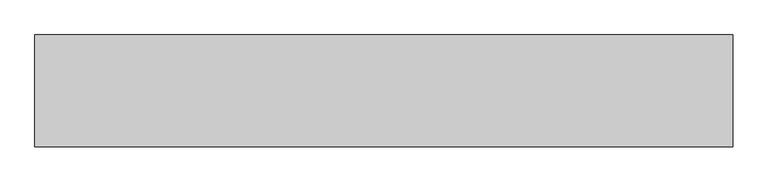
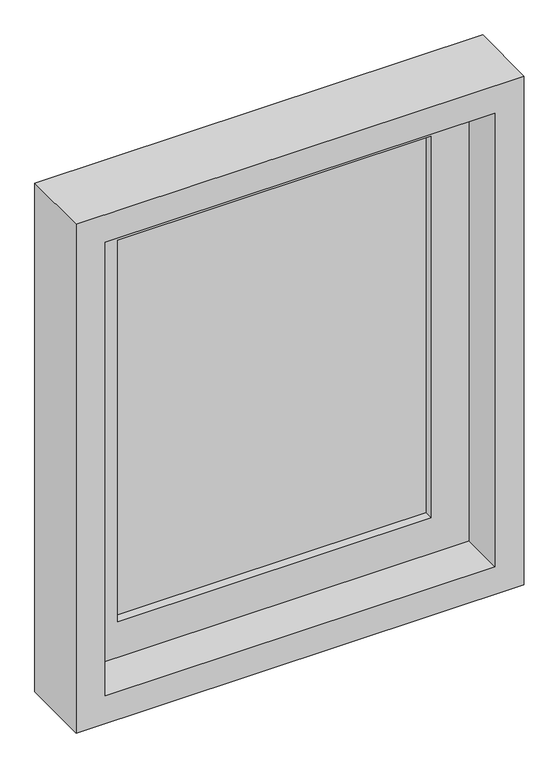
"""IFC4 building model written with IfcOpenShell, lengths in millimetres: proxy geometry, Renson_Fixvent_Window_SimpleFrame_Gen - XL : Renson_Fixvent_Window_SimpleFrame_Gen."""

from ifc_helpers import new_model, si_unit, frame, origin, place, context, project, spatial, polyline, outline, extrude, faceted_brep, source, transform, mapped, element, save


def generic_models_749d0f3b(model_context):
    return source(origin(), model_context, "Body", "SolidModel", [
        extrude(outline(polyline([(2055.0, 500.0), (2055.0, -500.0), (855.0, -500.0), (855.0, 500.0), (2055.0, 500.0)]), holes=[polyline([(920.0, 435.0), (920.0, -435.0), (1990.0, -435.0), (1990.0, 435.0), (920.0, 435.0)])]), frame((0.0, 0.0, 0.0), z_axis=(0.0, 1.0, 0.0), x_axis=(0.0, 0.0, 1.0)), (0.0, 0.0, 1.0), 160.0),
        extrude(outline(polyline([(1925.0, -370.0), (985.0, -370.0), (985.0, 370.0), (1925.0, 370.0), (1925.0, -370.0)]), holes=[polyline([(1905.0, 350.0), (1005.0, 350.0), (1005.0, -350.0), (1905.0, -350.0), (1905.0, 350.0)])]), frame((0.0, 140.0, 0.0), z_axis=(0.0, 1.0, 0.0), x_axis=(0.0, 0.0, 1.0)), (0.0, 0.0, 1.0), 20.0),
        extrude(outline(polyline([(370.0, 120.0), (-370.0, 120.0), (-370.0, 140.0), (370.0, 140.0), (370.0, 120.0)])), frame((0.0, 0.0, 985.0), z_axis=(0.0, 0.0, 1.0), x_axis=(1.0, 0.0, 0.0)), (0.0, 0.0, 1.0), 940.0),
        faceted_brep([(-370.0, 120.0, 1925.0), (-370.0, 160.0, 1925.0), (370.0, 160.0, 1925.0), (370.0, 120.0, 1925.0), (-350.0, 100.0, 1905.0), (-350.0, 120.0, 1905.0), (350.0, 120.0, 1905.0), (350.0, 100.0, 1905.0), (-435.0, 160.0, 1990.0), (-435.0, 100.0, 1990.0), (435.0, 100.0, 1990.0), (435.0, 160.0, 1990.0), (370.0, 160.0, 985.0), (370.0, 120.0, 985.0), (350.0, 120.0, 1005.0), (350.0, 100.0, 1005.0), (435.0, 100.0, 920.0), (435.0, 160.0, 920.0), (-370.0, 160.0, 985.0), (-370.0, 120.0, 985.0), (-350.0, 120.0, 1005.0), (-350.0, 100.0, 1005.0), (-435.0, 100.0, 920.0), (-435.0, 160.0, 920.0)], [[[0, 1, 2, 3]], [[4, 5, 6, 7]], [[8, 9, 10, 11]], [[3, 2, 12, 13]], [[7, 6, 14, 15]], [[11, 10, 16, 17]], [[13, 12, 18, 19]], [[15, 14, 20, 21]], [[17, 16, 22, 23]], [[11, 17, 23, 8], [1, 18, 12, 2]], [[19, 18, 1, 0]], [[3, 13, 19, 0], [5, 20, 14, 6]], [[21, 20, 5, 4]], [[9, 22, 16, 10], [7, 15, 21, 4]], [[23, 22, 9, 8]]]),
    ])


if __name__ == "__main__":
    model = new_model("IFC4")
    model_context = context("Model", 3, world=origin())
    ifc_project = project(units=[si_unit("LENGTHUNIT", "METRE", prefix="MILLI")], contexts=[model_context])
    site = spatial("IfcSite", under=ifc_project)
    building = spatial("IfcBuilding", under=site)
    placement = place(None, origin())
    generic_models_shape = generic_models_749d0f3b(model_context)
    element("IfcBuildingElementProxy", 1, Name="Renson_Fixvent_Window_SimpleFrame_Gen - XL : Renson_Fixvent_Window_SimpleFrame_Gen", ObjectType="Renson_Fixvent_Window_SimpleFrame_Gen - XL : Renson_Fixvent_Window_SimpleFrame_Gen", at=placement, inside=building, context=model_context, shape_type="MappedRepresentation", body=[
        mapped(generic_models_shape, transform((0.0, 0.0, 0.0), x_axis=(1.0, 0.0, 0.0), y_axis=(0.0, 1.0, 0.0), z_axis=(0.0, 0.0, 1.0))),
    ])
    save(model, "model.ifc")
